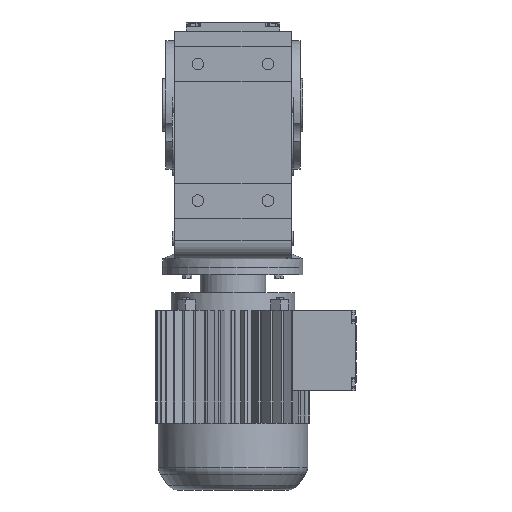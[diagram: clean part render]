
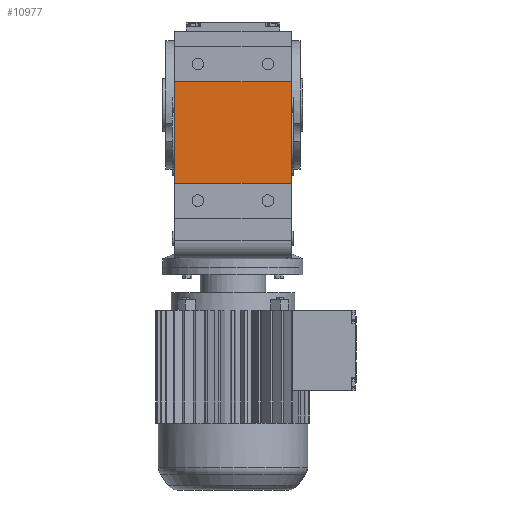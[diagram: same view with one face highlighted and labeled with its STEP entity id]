
A CAD part, front view. The second image highlights one B-rep face of the part: STEP entity #10977.
In plain terms, the highlighted planar face has unit normal (0, -1, 0).
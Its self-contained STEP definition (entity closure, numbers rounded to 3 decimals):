
#850 = PLANE('',#851);
#851 = AXIS2_PLACEMENT_3D('',#852,#853,#854);
#852 = CARTESIAN_POINT('',(-50.,-80.5,-116.05));
#853 = DIRECTION('',(-1.,0.,0.));
#854 = DIRECTION('',(0.,0.,1.));
#5272 = VERTEX_POINT('',#5273);
#5273 = CARTESIAN_POINT('',(-50.,-96.5,-67.));
#5287 = PLANE('',#5288);
#5288 = AXIS2_PLACEMENT_3D('',#5289,#5290,#5291);
#5289 = CARTESIAN_POINT('',(-50.,-96.5,-67.));
#5290 = DIRECTION('',(0.,0.,1.));
#5291 = DIRECTION('',(1.,0.,0.));
#5299 = EDGE_CURVE('',#5300,#5272,#5302,.T.);
#5300 = VERTEX_POINT('',#5301);
#5301 = CARTESIAN_POINT('',(-50.,-96.5,20.));
#5302 = SURFACE_CURVE('',#5303,(#5307,#5314),.PCURVE_S1.);
#5303 = LINE('',#5304,#5305);
#5304 = CARTESIAN_POINT('',(-50.,-96.5,20.));
#5305 = VECTOR('',#5306,1.);
#5306 = DIRECTION('',(0.,0.,-1.));
#5307 = PCURVE('',#850,#5308);
#5308 = DEFINITIONAL_REPRESENTATION('',(#5309),#5313);
#5309 = LINE('',#5310,#5311);
#5310 = CARTESIAN_POINT('',(136.05,-16.));
#5311 = VECTOR('',#5312,1.);
#5312 = DIRECTION('',(-1.,0.));
#5313 = ( GEOMETRIC_REPRESENTATION_CONTEXT(2) 
PARAMETRIC_REPRESENTATION_CONTEXT() REPRESENTATION_CONTEXT('2D SPACE',''
  ) );
#5314 = PCURVE('',#5315,#5320);
#5315 = PLANE('',#5316);
#5316 = AXIS2_PLACEMENT_3D('',#5317,#5318,#5319);
#5317 = CARTESIAN_POINT('',(-50.,-96.5,20.));
#5318 = DIRECTION('',(0.,-1.,0.));
#5319 = DIRECTION('',(0.,0.,-1.));
#5320 = DEFINITIONAL_REPRESENTATION('',(#5321),#5325);
#5321 = LINE('',#5322,#5323);
#5322 = CARTESIAN_POINT('',(0.,0.));
#5323 = VECTOR('',#5324,1.);
#5324 = DIRECTION('',(1.,0.));
#5325 = ( GEOMETRIC_REPRESENTATION_CONTEXT(2) 
PARAMETRIC_REPRESENTATION_CONTEXT() REPRESENTATION_CONTEXT('2D SPACE',''
  ) );
#5343 = PLANE('',#5344);
#5344 = AXIS2_PLACEMENT_3D('',#5345,#5346,#5347);
#5345 = CARTESIAN_POINT('',(-50.,-96.5,20.));
#5346 = DIRECTION('',(0.,0.,-1.));
#5347 = DIRECTION('',(-1.,0.,0.));
#9874 = PLANE('',#9875);
#9875 = AXIS2_PLACEMENT_3D('',#9876,#9877,#9878);
#9876 = CARTESIAN_POINT('',(50.,-80.5,-116.05));
#9877 = DIRECTION('',(-1.,0.,0.));
#9878 = DIRECTION('',(0.,0.,1.));
#10266 = VERTEX_POINT('',#10267);
#10267 = CARTESIAN_POINT('',(50.,-96.5,-67.));
#10288 = EDGE_CURVE('',#5272,#10266,#10289,.T.);
#10289 = SURFACE_CURVE('',#10290,(#10294,#10301),.PCURVE_S1.);
#10290 = LINE('',#10291,#10292);
#10291 = CARTESIAN_POINT('',(-50.,-96.5,-67.));
#10292 = VECTOR('',#10293,1.);
#10293 = DIRECTION('',(1.,0.,0.));
#10294 = PCURVE('',#5287,#10295);
#10295 = DEFINITIONAL_REPRESENTATION('',(#10296),#10300);
#10296 = LINE('',#10297,#10298);
#10297 = CARTESIAN_POINT('',(0.,0.));
#10298 = VECTOR('',#10299,1.);
#10299 = DIRECTION('',(1.,0.));
#10300 = ( GEOMETRIC_REPRESENTATION_CONTEXT(2) 
PARAMETRIC_REPRESENTATION_CONTEXT() REPRESENTATION_CONTEXT('2D SPACE',''
  ) );
#10301 = PCURVE('',#5315,#10302);
#10302 = DEFINITIONAL_REPRESENTATION('',(#10303),#10307);
#10303 = LINE('',#10304,#10305);
#10304 = CARTESIAN_POINT('',(87.,0.));
#10305 = VECTOR('',#10306,1.);
#10306 = DIRECTION('',(0.,1.));
#10307 = ( GEOMETRIC_REPRESENTATION_CONTEXT(2) 
PARAMETRIC_REPRESENTATION_CONTEXT() REPRESENTATION_CONTEXT('2D SPACE',''
  ) );
#10977 = ADVANCED_FACE('',(#10978),#5315,.T.);
#10978 = FACE_BOUND('',#10979,.T.);
#10979 = EDGE_LOOP('',(#10980,#10981,#11004,#11025));
#10980 = ORIENTED_EDGE('',*,*,#10288,.T.);
#10981 = ORIENTED_EDGE('',*,*,#10982,.F.);
#10982 = EDGE_CURVE('',#10983,#10266,#10985,.T.);
#10983 = VERTEX_POINT('',#10984);
#10984 = CARTESIAN_POINT('',(50.,-96.5,20.));
#10985 = SURFACE_CURVE('',#10986,(#10990,#10997),.PCURVE_S1.);
#10986 = LINE('',#10987,#10988);
#10987 = CARTESIAN_POINT('',(50.,-96.5,20.));
#10988 = VECTOR('',#10989,1.);
#10989 = DIRECTION('',(0.,0.,-1.));
#10990 = PCURVE('',#5315,#10991);
#10991 = DEFINITIONAL_REPRESENTATION('',(#10992),#10996);
#10992 = LINE('',#10993,#10994);
#10993 = CARTESIAN_POINT('',(0.,100.));
#10994 = VECTOR('',#10995,1.);
#10995 = DIRECTION('',(1.,0.));
#10996 = ( GEOMETRIC_REPRESENTATION_CONTEXT(2) 
PARAMETRIC_REPRESENTATION_CONTEXT() REPRESENTATION_CONTEXT('2D SPACE',''
  ) );
#10997 = PCURVE('',#9874,#10998);
#10998 = DEFINITIONAL_REPRESENTATION('',(#10999),#11003);
#10999 = LINE('',#11000,#11001);
#11000 = CARTESIAN_POINT('',(136.05,-16.));
#11001 = VECTOR('',#11002,1.);
#11002 = DIRECTION('',(-1.,0.));
#11003 = ( GEOMETRIC_REPRESENTATION_CONTEXT(2) 
PARAMETRIC_REPRESENTATION_CONTEXT() REPRESENTATION_CONTEXT('2D SPACE',''
  ) );
#11004 = ORIENTED_EDGE('',*,*,#11005,.F.);
#11005 = EDGE_CURVE('',#5300,#10983,#11006,.T.);
#11006 = SURFACE_CURVE('',#11007,(#11011,#11018),.PCURVE_S1.);
#11007 = LINE('',#11008,#11009);
#11008 = CARTESIAN_POINT('',(-50.,-96.5,20.));
#11009 = VECTOR('',#11010,1.);
#11010 = DIRECTION('',(1.,0.,0.));
#11011 = PCURVE('',#5315,#11012);
#11012 = DEFINITIONAL_REPRESENTATION('',(#11013),#11017);
#11013 = LINE('',#11014,#11015);
#11014 = CARTESIAN_POINT('',(0.,0.));
#11015 = VECTOR('',#11016,1.);
#11016 = DIRECTION('',(0.,1.));
#11017 = ( GEOMETRIC_REPRESENTATION_CONTEXT(2) 
PARAMETRIC_REPRESENTATION_CONTEXT() REPRESENTATION_CONTEXT('2D SPACE',''
  ) );
#11018 = PCURVE('',#5343,#11019);
#11019 = DEFINITIONAL_REPRESENTATION('',(#11020),#11024);
#11020 = LINE('',#11021,#11022);
#11021 = CARTESIAN_POINT('',(0.,0.));
#11022 = VECTOR('',#11023,1.);
#11023 = DIRECTION('',(-1.,0.));
#11024 = ( GEOMETRIC_REPRESENTATION_CONTEXT(2) 
PARAMETRIC_REPRESENTATION_CONTEXT() REPRESENTATION_CONTEXT('2D SPACE',''
  ) );
#11025 = ORIENTED_EDGE('',*,*,#5299,.T.);
